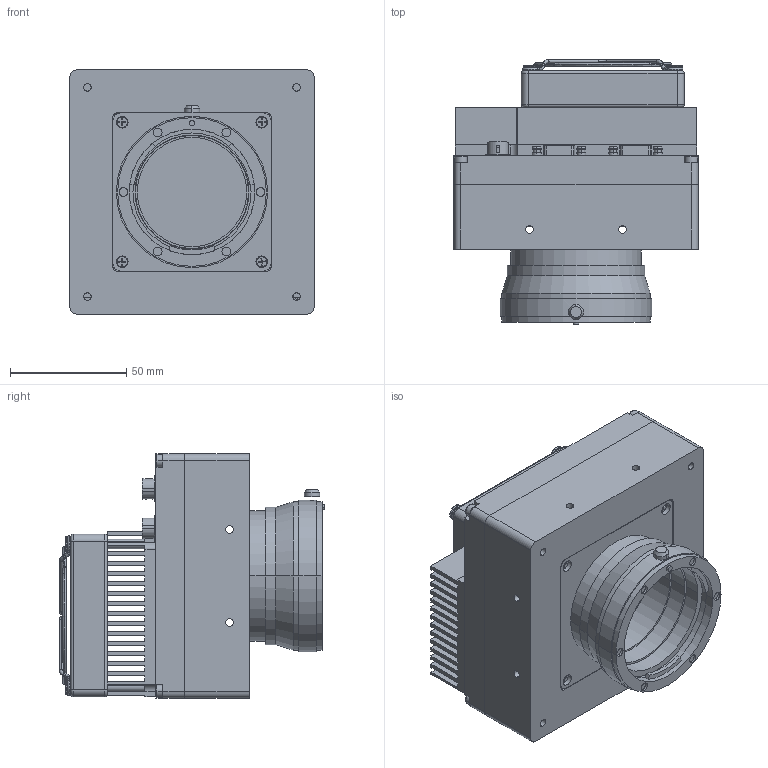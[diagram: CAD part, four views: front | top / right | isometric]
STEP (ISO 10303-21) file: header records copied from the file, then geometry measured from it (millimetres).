
FILE_DESCRIPTION (( 'STEP AP203' ), '1' );
FILE_NAME ('TTS71MCL-4M-A02-V1.2.0-三维模型.STEP', '2022-08-17T10:39:03', ( '微软用户' ), ( '微软中国' ), 'SwSTEP 2.0', 'SolidWorks 2017', '' );
FILE_SCHEMA (( 'CONFIG_CONTROL_DESIGN' ));
Products named in the file (1): TTS71MCL-4M-A02-V1.2.0-三维模型
Bounding box: 105 x 113.92 x 105 mm (x, y, z)
Surface area: 134212.2 mm2 (no closed solid volume)
Topology: 0 solids, 65 shells, 892 faces, 3123 edges, 2267 vertices
Faces by surface type: plane 435, cylinder 324, bspline 66, cone 40, torus 16, sphere 11
Entity records: 36952 total; most frequent: CARTESIAN_POINT 10603, DIRECTION 5435, ORIENTED_EDGE 4910, EDGE_CURVE 3094, VERTEX_POINT 2255, LINE 1941, VECTOR 1941, AXIS2_PLACEMENT_3D 1747
